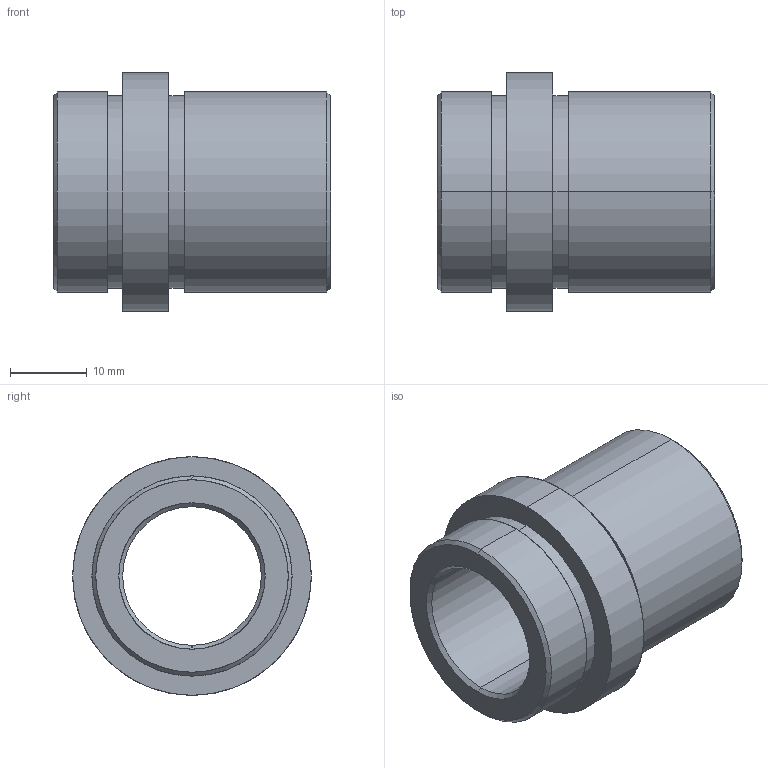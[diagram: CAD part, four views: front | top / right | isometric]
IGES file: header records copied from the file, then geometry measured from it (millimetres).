
Start section: SolidWorks IGES FILE using analytic representation for surfaces
Global section: file name: D:\zzzzz\Delta\D21\18\D21 - 18x27.IGS; native system: SolidWorks 2004 by SolidWorks Corporation; preprocessor: Version 5.3; author: Hkn; date: 080326.191627; units: millimetre
Bounding box: 36 x 31 x 31 mm (x, y, z)
Surface area: 6137.8 mm2 (no closed solid volume)
Topology: 0 solids, 0 shells, 26 faces, 528 edges, 528 vertices
Faces by surface type: revolution 20, bspline 6
